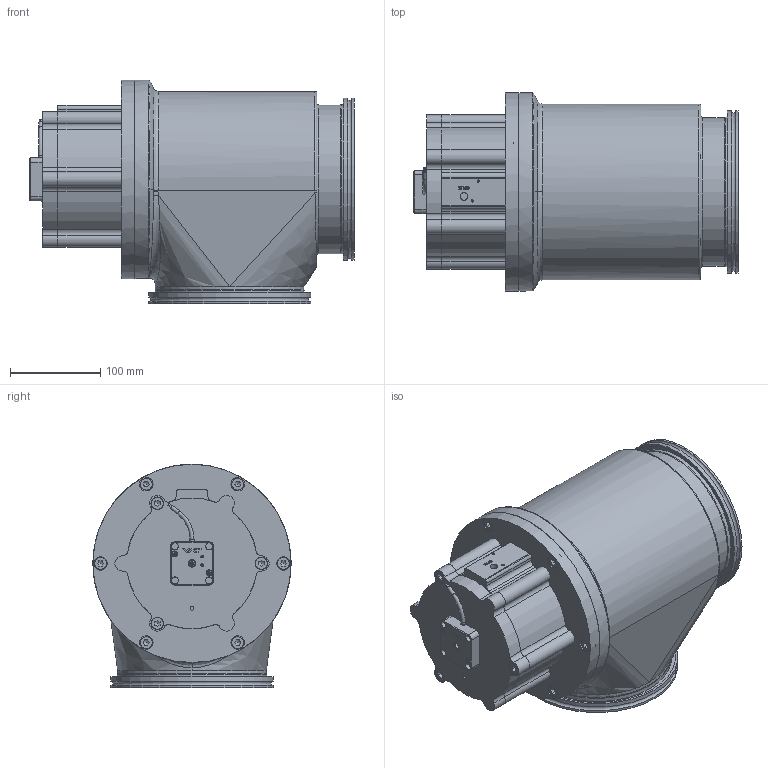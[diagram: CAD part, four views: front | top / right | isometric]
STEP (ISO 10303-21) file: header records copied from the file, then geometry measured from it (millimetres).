
FILE_DESCRIPTION(/* description */ (''),/* implementation_level */ '2;1');
FILE_NAME(/* name */ '1326234571_203.stp',/* time_stamp */ '2013-07-16T08:42:54+02:00',/* author */ (''),/* organization */ (''),/* preprocessor_version */ 'ST-DEVELOPER v11',/* originating_system */ 'SIEMENS PLM Software NX 7.5',/* authorisation */ '');
FILE_SCHEMA (('AP203_CONFIGURATION_CONTROLLED_3D_DESIGN_OF_MECHANICAL_PARTS_AND_ASSEMBLIES_MIM_LF'));
Length unit declared in the file: millimetre
Products named in the file (14): 500093_18157ID; n-6121-026.2; 546207_18166ID; 421306; 233359; 236204_1.1; 546253; 546505; 228777; 476060; 500278_MODEL; 546204_MODEL; 421285; 563458
Assembly tree (22 placements, depth 3):
  563458
    476060
    228777  x9
    421285
      236204_1.1  x2
      233359
      421306
    546505
    546204_MODEL
      546207_18166ID
      n-6121-026.2
    546253
    500278_MODEL
      500093_18157ID
Bounding box: 359.5 x 220 x 248 mm (x, y, z)
Volume: 2799888.1 mm3; surface area: 639549.2 mm2
Topology: 37 solids, 37 shells, 844 faces, 2058 edges, 1338 vertices
Faces by surface type: plane 413, cylinder 257, cone 85, bspline 50, torus 30, extrusion 8, sphere 1
Full cylindrical faces by diameter (mm): 1.4 x4, 2.5 x5, 3 x6, 3.85 x1, 4.2 x2, 4.5 x2, 5.6 x2, 6.2 x2, 6.66 x9, 6.7 x9, 6.8 x12, 7.4 x1, 8 x19, 8.4 x1, 8.566 x1, 9 x12, 13 x9, 14 x6, 15 x6, 21 x1, 23.011 x2, 23.3 x1, 29.4 x1, 30 x1, 39.5 x1, 40 x1, 44.4 x1, 50 x1, 135.125 x1, 136.29 x1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
Entity records: 23932 total; most frequent: CARTESIAN_POINT 6691, DIRECTION 3143, ORIENTED_EDGE 2960, EDGE_CURVE 1480, AXIS2_PLACEMENT_3D 1234, VERTEX_POINT 1066, EDGE_LOOP 960, VECTOR 675
